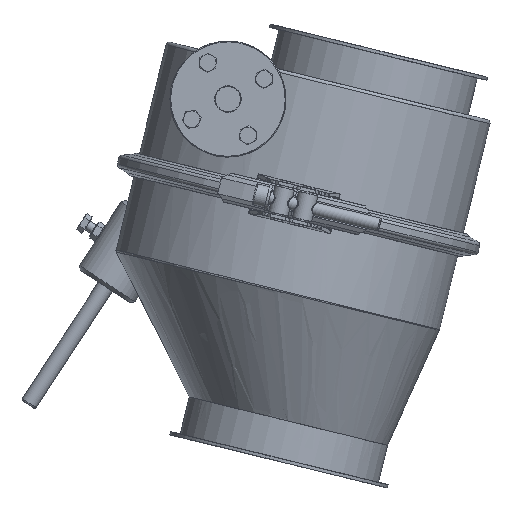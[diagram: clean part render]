
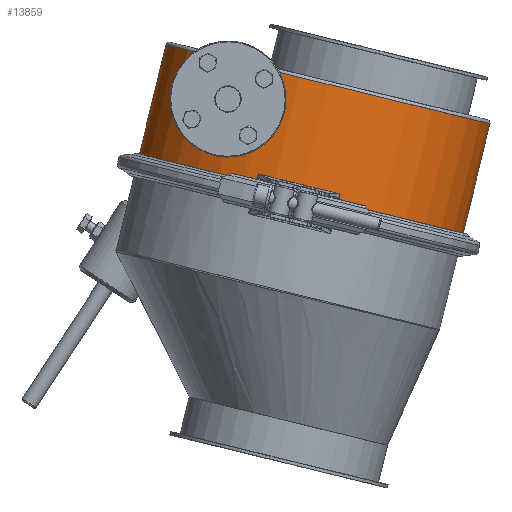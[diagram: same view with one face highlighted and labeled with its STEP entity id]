
A CAD part, left-side view. The second image highlights one B-rep face of the part: STEP entity #13859.
In plain terms, the highlighted cylindrical face has radius 100.5 mm (diameter 201 mm), a full revolution.
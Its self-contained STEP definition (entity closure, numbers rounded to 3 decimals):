
#13727=CARTESIAN_POINT('',(-100.5,25.,23.0));
#13728=VERTEX_POINT('',#13727);
#13729=CARTESIAN_POINT('',(0.0,25.0,23.0));
#13730=DIRECTION('',(0.0,0.0,1.0));
#13731=DIRECTION('',(1.0,0.0,0.0));
#13732=AXIS2_PLACEMENT_3D('',#13729,#13730,#13731);
#13733=CIRCLE('',#13732,100.5);
#13734=EDGE_CURVE('',#13728,#13728,#13733,.T.);
#13750=CARTESIAN_POINT('',(0.0,25.0,25.0));
#13751=DIRECTION('',(0.0,0.0,-1.0));
#13752=DIRECTION('',(1.0,0.0,0.0));
#13753=AXIS2_PLACEMENT_3D('',#13750,#13751,#13752);
#13754=CYLINDRICAL_SURFACE('',#13753,100.5);
#13755=CARTESIAN_POINT('',(-100.5,25.,-48.0));
#13756=VERTEX_POINT('',#13755);
#13757=CARTESIAN_POINT('',(0.0,25.0,-48.0));
#13758=DIRECTION('',(0.0,0.0,1.0));
#13759=DIRECTION('',(1.0,0.0,0.0));
#13760=AXIS2_PLACEMENT_3D('',#13757,#13758,#13759);
#13761=CIRCLE('',#13760,100.5);
#13762=EDGE_CURVE('',#13756,#13756,#13761,.T.);
#13763=ORIENTED_EDGE('',*,*,#13762,.T.);
#13764=EDGE_LOOP('',(#13763));
#13765=FACE_OUTER_BOUND('',#13764,.T.);
#13766=CARTESIAN_POINT('',(-90.356,69.0,0.));
#13767=VERTEX_POINT('',#13766);
#13768=CARTESIAN_POINT('',(-90.356,69.0,0.));
#13769=CARTESIAN_POINT('',(-90.356,69.0,-1.551));
#13770=CARTESIAN_POINT('',(-90.208,69.307,-3.193));
#13771=CARTESIAN_POINT('',(-89.604,70.517,-6.184));
#13772=CARTESIAN_POINT('',(-89.145,71.419,-7.532));
#13773=CARTESIAN_POINT('',(-87.971,73.612,-9.851));
#13774=CARTESIAN_POINT('',(-87.137,75.108,-10.879));
#13775=CARTESIAN_POINT('',(-85.23,78.288,-12.202));
#13776=CARTESIAN_POINT('',(-84.154,79.97,-12.5));
#13777=CARTESIAN_POINT('',(-81.985,83.161,-12.5));
#13778=CARTESIAN_POINT('',(-80.717,84.909,-12.153));
#13779=CARTESIAN_POINT('',(-78.232,88.12,-10.747));
#13780=CARTESIAN_POINT('',(-77.016,89.585,-9.69));
#13781=CARTESIAN_POINT('',(-75.213,91.668,-7.397));
#13782=CARTESIAN_POINT('',(-74.447,92.517,-6.11));
#13783=CARTESIAN_POINT('',(-73.64,93.392,-3.929));
#13784=CARTESIAN_POINT('',(-73.427,93.62,-3.16));
#13785=CARTESIAN_POINT('',(-73.142,93.924,-1.59));
#13786=CARTESIAN_POINT('',(-73.07,94.0,-0.788));
#13787=CARTESIAN_POINT('',(-73.07,94.,0.788));
#13788=CARTESIAN_POINT('',(-73.142,93.924,1.59));
#13789=CARTESIAN_POINT('',(-73.427,93.62,3.16));
#13790=CARTESIAN_POINT('',(-73.64,93.392,3.929));
#13791=CARTESIAN_POINT('',(-74.447,92.517,6.11));
#13792=CARTESIAN_POINT('',(-75.213,91.668,7.397));
#13793=CARTESIAN_POINT('',(-77.016,89.585,9.69));
#13794=CARTESIAN_POINT('',(-78.232,88.12,10.747));
#13795=CARTESIAN_POINT('',(-80.717,84.909,12.153));
#13796=CARTESIAN_POINT('',(-81.985,83.161,12.5));
#13797=CARTESIAN_POINT('',(-84.154,79.97,12.5));
#13798=CARTESIAN_POINT('',(-85.23,78.288,12.202));
#13799=CARTESIAN_POINT('',(-87.137,75.108,10.879));
#13800=CARTESIAN_POINT('',(-87.971,73.612,9.851));
#13801=CARTESIAN_POINT('',(-89.145,71.419,7.532));
#13802=CARTESIAN_POINT('',(-89.604,70.517,6.184));
#13803=CARTESIAN_POINT('',(-90.208,69.307,3.193));
#13804=CARTESIAN_POINT('',(-90.356,69.0,1.551));
#13805=CARTESIAN_POINT('',(-90.356,69.0,0.));
#13806=B_SPLINE_CURVE_WITH_KNOTS('',3,(#13768,#13769,#13770,#13771,#13772,#13773,#13774,#13775,#13776,#13777,#13778,#13779,#13780,#13781,#13782,#13783,#13784,#13785,#13786,#13787,#13788,#13789,#13790,#13791,#13792,#13793,#13794,#13795,#13796,#13797,#13798,#13799,#13800,#13801,#13802,#13803,#13804,#13805),.UNSPECIFIED.,.T.,.U.,(4,2,2,2,2,2,2,2,2,2,2,2,2,2,2,2,2,2,4),(0.0,0.465,0.93,1.485,2.04,2.643,3.246,3.719,3.955,4.191,4.428,4.664,5.137,5.74,6.342,6.897,7.452,7.917,8.383),.UNSPECIFIED.);
#13807=EDGE_CURVE('',#13767,#13767,#13806,.T.);
#13808=ORIENTED_EDGE('',*,*,#13807,.T.);
#13809=EDGE_LOOP('',(#13808));
#13810=FACE_BOUND('',#13809,.T.);
#13811=CARTESIAN_POINT('',(90.356,69.0,0.));
#13812=VERTEX_POINT('',#13811);
#13813=CARTESIAN_POINT('',(90.356,69.0,0.0));
#13814=CARTESIAN_POINT('',(90.356,69.0,1.551));
#13815=CARTESIAN_POINT('',(90.208,69.307,3.193));
#13816=CARTESIAN_POINT('',(89.604,70.517,6.184));
#13817=CARTESIAN_POINT('',(89.145,71.419,7.532));
#13818=CARTESIAN_POINT('',(87.971,73.612,9.851));
#13819=CARTESIAN_POINT('',(87.137,75.108,10.879));
#13820=CARTESIAN_POINT('',(85.23,78.288,12.202));
#13821=CARTESIAN_POINT('',(84.154,79.97,12.5));
#13822=CARTESIAN_POINT('',(81.985,83.161,12.5));
#13823=CARTESIAN_POINT('',(80.717,84.909,12.153));
#13824=CARTESIAN_POINT('',(78.232,88.12,10.747));
#13825=CARTESIAN_POINT('',(77.016,89.585,9.69));
#13826=CARTESIAN_POINT('',(75.213,91.668,7.397));
#13827=CARTESIAN_POINT('',(74.447,92.517,6.11));
#13828=CARTESIAN_POINT('',(73.64,93.392,3.929));
#13829=CARTESIAN_POINT('',(73.427,93.62,3.16));
#13830=CARTESIAN_POINT('',(73.142,93.924,1.59));
#13831=CARTESIAN_POINT('',(73.07,94.0,0.788));
#13832=CARTESIAN_POINT('',(73.07,94.0,-0.788));
#13833=CARTESIAN_POINT('',(73.142,93.924,-1.59));
#13834=CARTESIAN_POINT('',(73.427,93.62,-3.16));
#13835=CARTESIAN_POINT('',(73.64,93.392,-3.929));
#13836=CARTESIAN_POINT('',(74.447,92.517,-6.11));
#13837=CARTESIAN_POINT('',(75.213,91.668,-7.397));
#13838=CARTESIAN_POINT('',(77.016,89.585,-9.69));
#13839=CARTESIAN_POINT('',(78.232,88.12,-10.747));
#13840=CARTESIAN_POINT('',(80.717,84.909,-12.153));
#13841=CARTESIAN_POINT('',(81.985,83.161,-12.5));
#13842=CARTESIAN_POINT('',(84.154,79.97,-12.5));
#13843=CARTESIAN_POINT('',(85.23,78.288,-12.202));
#13844=CARTESIAN_POINT('',(87.137,75.108,-10.879));
#13845=CARTESIAN_POINT('',(87.971,73.612,-9.851));
#13846=CARTESIAN_POINT('',(89.145,71.419,-7.532));
#13847=CARTESIAN_POINT('',(89.604,70.517,-6.184));
#13848=CARTESIAN_POINT('',(90.208,69.307,-3.193));
#13849=CARTESIAN_POINT('',(90.356,69.0,-1.551));
#13850=CARTESIAN_POINT('',(90.356,69.0,0.));
#13851=B_SPLINE_CURVE_WITH_KNOTS('',3,(#13813,#13814,#13815,#13816,#13817,#13818,#13819,#13820,#13821,#13822,#13823,#13824,#13825,#13826,#13827,#13828,#13829,#13830,#13831,#13832,#13833,#13834,#13835,#13836,#13837,#13838,#13839,#13840,#13841,#13842,#13843,#13844,#13845,#13846,#13847,#13848,#13849,#13850),.UNSPECIFIED.,.T.,.U.,(4,2,2,2,2,2,2,2,2,2,2,2,2,2,2,2,2,2,4),(0.0,0.465,0.93,1.485,2.04,2.643,3.246,3.719,3.955,4.191,4.428,4.664,5.137,5.74,6.342,6.897,7.452,7.917,8.383),.UNSPECIFIED.);
#13852=EDGE_CURVE('',#13812,#13812,#13851,.T.);
#13853=ORIENTED_EDGE('',*,*,#13852,.T.);
#13854=EDGE_LOOP('',(#13853));
#13855=FACE_BOUND('',#13854,.T.);
#13856=ORIENTED_EDGE('',*,*,#13734,.F.);
#13857=EDGE_LOOP('',(#13856));
#13858=FACE_BOUND('',#13857,.T.);
#13859=ADVANCED_FACE('',(#13765,#13810,#13855,#13858),#13754,.T.);
